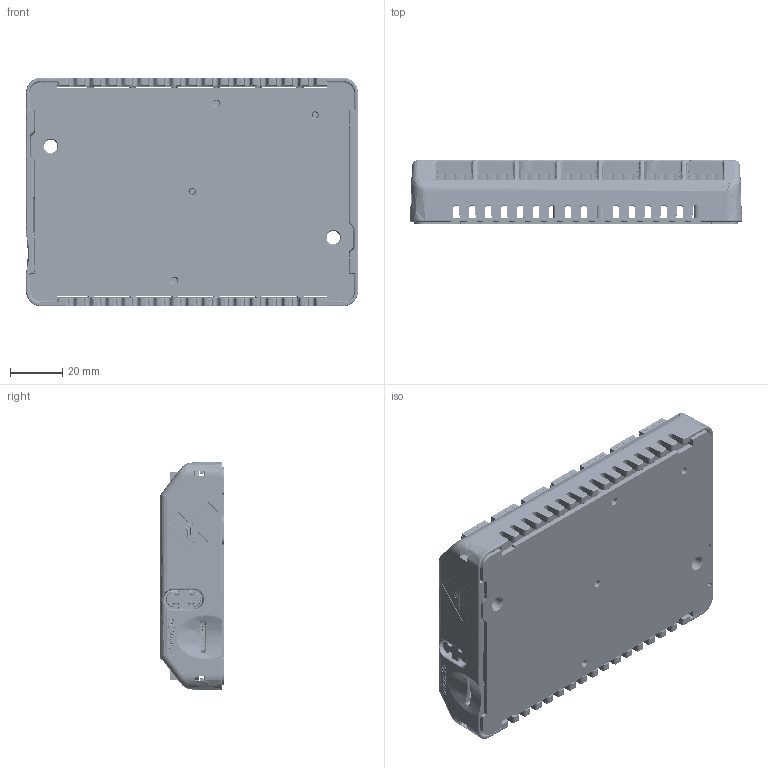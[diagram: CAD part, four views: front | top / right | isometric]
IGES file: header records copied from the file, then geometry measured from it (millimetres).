
Start section: SolidWorks IGES file using analytic representation for surfaces
Global section: file name: C:\Users\micheal_berezny\Desktop\SolidWorks\CLCR-4-13.IGS; native system: SolidWorks 2013; preprocessor: SolidWorks 2013; author: mike_berezny; date: 200428.093225; units: millimetre
Bounding box: 126.86 x 24.26 x 87.49 mm (x, y, z)
Surface area: 118068.9 mm2 (no closed solid volume)
Topology: 0 solids, 0 shells, 14814 faces, 109509 edges, 109293 vertices
Faces by surface type: bspline 11174, revolution 3640
